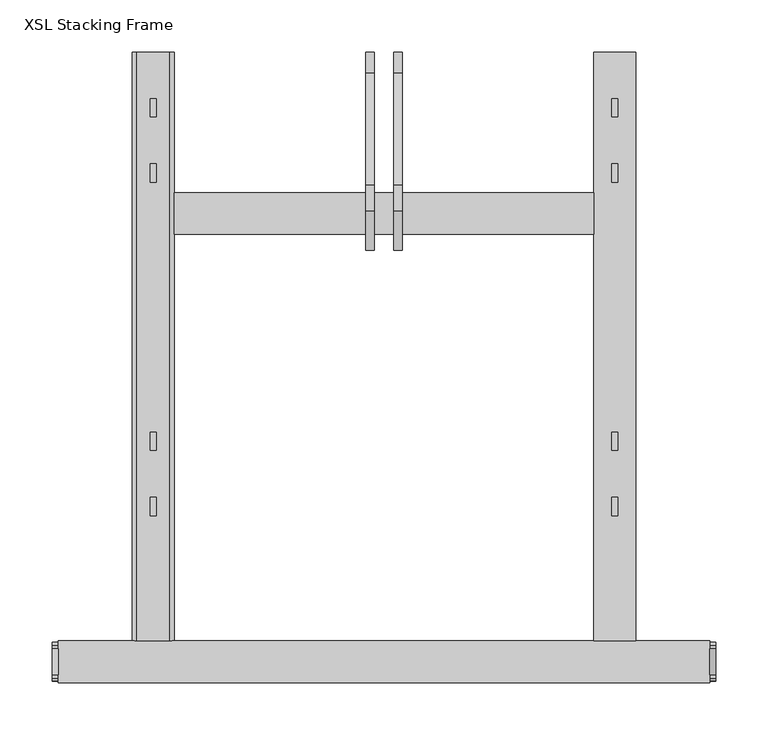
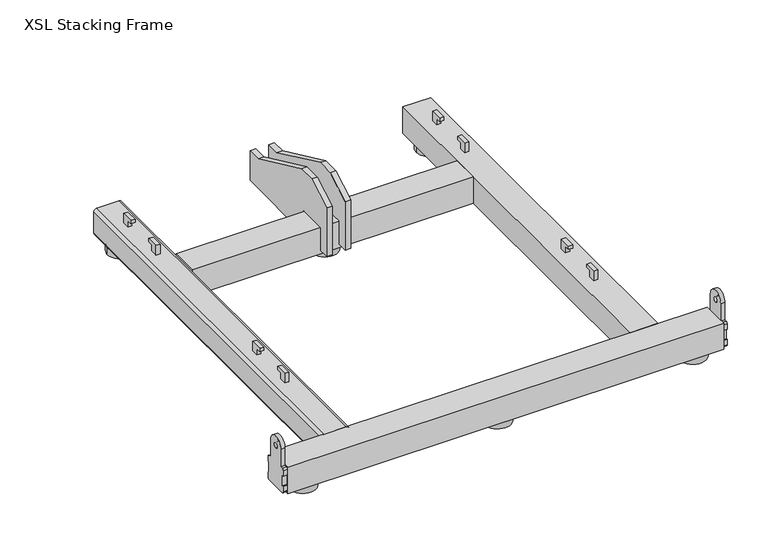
"""IFC4 building model written with IfcOpenShell, lengths in millimetres: proxy geometry, d&b SL-Series XSL Stacking Frame : XSL Stacking Frame."""

from ifc_helpers import new_model, si_unit, point, frame, frame_2d, origin, origin_with_axes, origin_2d, place, context, project, spatial, polyline, circle_curve, trimmed, segment, composite_curve, outline, extrude, source, transform, mapped, element, save


def xsl_stacking_frame_b9873154(model_context):
    return source(origin(), model_context, "Body", "SweptSolid", [
        extrude(outline(composite_curve([segment(polyline([(-12.5, 48.5), (-12.5, 75.0)]), True, "CONTINUOUS"), segment(trimmed(circle_curve(frame_2d((0.0, 75.0)), 12.5), [point((-12.5, 75.0))], [point((12.5, 75.0))], False, "CARTESIAN"), True, "CONTINUOUS"), segment(polyline([(12.5, 75.0), (12.5, 48.5), (16.0, 48.5)]), True, "CONTINUOUS"), segment(trimmed(circle_curve(frame_2d((16.0, 46.0)), 2.5), [point((16.0, 48.5))], [point((18.5, 46.0))], False, "CARTESIAN"), True, "CONTINUOUS"), segment(polyline([(18.5, 46.0), (18.5, 37.7), (16.8, 37.7), (16.8, 22.3), (18.5, 22.3), (18.5, 14.0)]), True, "CONTINUOUS"), segment(trimmed(circle_curve(frame_2d((16.0, 14.0)), 2.5), [point((18.5, 14.0))], [point((16.0, 11.5))], False, "CARTESIAN"), True, "CONTINUOUS"), segment(polyline([(16.0, 11.5), (-16.0, 11.5)]), True, "CONTINUOUS"), segment(trimmed(circle_curve(frame_2d((-16.0, 14.0)), 2.5), [point((-16.0, 11.5))], [point((-18.5, 14.0))], False, "CARTESIAN"), True, "CONTINUOUS"), segment(polyline([(-18.5, 14.0), (-18.5, 22.3), (-16.8, 22.3), (-16.8, 37.7), (-18.5, 37.7), (-18.5, 46.0)]), True, "CONTINUOUS"), segment(trimmed(circle_curve(frame_2d((-16.0, 46.0)), 2.5), [point((-18.5, 46.0))], [point((-16.0, 48.5))], False, "CARTESIAN"), True, "CONTINUOUS"), segment(polyline([(-16.0, 48.5), (-12.5, 48.5)]), True, "CONTINUOUS")], self_intersect=False), holes=[composite_curve([segment(trimmed(circle_curve(frame_2d((0.0, 73.35)), 3.5), [point((0.0, 76.85))], [point((0.0, 69.85))], True, "CARTESIAN"), True, "CONTINUOUS"), segment(trimmed(circle_curve(frame_2d((0.0, 73.35)), 3.5), [point((0.0, 69.85))], [point((0.0, 76.85))], True, "CARTESIAN"), True, "CONTINUOUS")], self_intersect=False)]), frame((312.5, 0.0, 0.0), z_axis=(1.0, 0.0, 0.0), x_axis=(0.0, 1.0, 0.0)), (0.0, 0.0, 1.0), 6.0),
        extrude(outline(composite_curve([segment(polyline([(-12.5, 48.5), (-12.5, 75.0)]), True, "CONTINUOUS"), segment(trimmed(circle_curve(frame_2d((0.0, 75.0)), 12.5), [point((-12.5, 75.0))], [point((12.5, 75.0))], False, "CARTESIAN"), True, "CONTINUOUS"), segment(polyline([(12.5, 75.0), (12.5, 48.5), (16.0, 48.5)]), True, "CONTINUOUS"), segment(trimmed(circle_curve(frame_2d((16.0, 46.0)), 2.5), [point((16.0, 48.5))], [point((18.5, 46.0))], False, "CARTESIAN"), True, "CONTINUOUS"), segment(polyline([(18.5, 46.0), (18.5, 37.7), (16.8, 37.7), (16.8, 22.3), (18.5, 22.3), (18.5, 14.0)]), True, "CONTINUOUS"), segment(trimmed(circle_curve(frame_2d((16.0, 14.0)), 2.5), [point((18.5, 14.0))], [point((16.0, 11.5))], False, "CARTESIAN"), True, "CONTINUOUS"), segment(polyline([(16.0, 11.5), (-16.0, 11.5)]), True, "CONTINUOUS"), segment(trimmed(circle_curve(frame_2d((-16.0, 14.0)), 2.5), [point((-16.0, 11.5))], [point((-18.5, 14.0))], False, "CARTESIAN"), True, "CONTINUOUS"), segment(polyline([(-18.5, 14.0), (-18.5, 22.3), (-16.8, 22.3), (-16.8, 37.7), (-18.5, 37.7), (-18.5, 46.0)]), True, "CONTINUOUS"), segment(trimmed(circle_curve(frame_2d((-16.0, 46.0)), 2.5), [point((-18.5, 46.0))], [point((-16.0, 48.5))], False, "CARTESIAN"), True, "CONTINUOUS"), segment(polyline([(-16.0, 48.5), (-12.5, 48.5)]), True, "CONTINUOUS")], self_intersect=False), holes=[composite_curve([segment(trimmed(circle_curve(frame_2d((0.0, 73.35)), 3.5), [point((0.0, 76.85))], [point((0.0, 69.85))], True, "CARTESIAN"), True, "CONTINUOUS"), segment(trimmed(circle_curve(frame_2d((0.0, 73.35)), 3.5), [point((0.0, 69.85))], [point((0.0, 76.85))], True, "CARTESIAN"), True, "CONTINUOUS")], self_intersect=False)]), frame((-318.5, 0.0, 0.0), z_axis=(1.0, 0.0, 0.0), x_axis=(0.0, 1.0, 0.0)), (0.0, 0.0, 1.0), 6.0),
        extrude(outline(composite_curve([segment(trimmed(circle_curve(frame_2d((-280.0, 0.0)), 19.0), [point((-299.0, 0.0))], [point((-261.0, 0.0))], False, "CARTESIAN"), True, "CONTINUOUS"), segment(trimmed(circle_curve(frame_2d((-280.0, 0.0)), 19.0), [point((-261.0, 0.0))], [point((-299.0, 0.0))], False, "CARTESIAN"), True, "CONTINUOUS")], self_intersect=False)), origin_with_axes(), (0.0, 0.0, 1.0), 10.0),
        extrude(outline(composite_curve([segment(trimmed(circle_curve(origin_2d(), 19.0), [point((-19.0, 0.0))], [point((19.0, 0.0))], False, "CARTESIAN"), True, "CONTINUOUS"), segment(trimmed(circle_curve(origin_2d(), 19.0), [point((19.0, 0.0))], [point((-19.0, 0.0))], False, "CARTESIAN"), True, "CONTINUOUS")], self_intersect=False)), origin_with_axes(), (0.0, 0.0, 1.0), 10.0),
        extrude(outline(composite_curve([segment(trimmed(circle_curve(frame_2d((280.0, 0.0)), 19.0), [point((299.0, 0.0))], [point((261.0, 0.0))], False, "CARTESIAN"), True, "CONTINUOUS"), segment(trimmed(circle_curve(frame_2d((280.0, 0.0)), 19.0), [point((261.0, 0.0))], [point((299.0, 0.0))], False, "CARTESIAN"), True, "CONTINUOUS")], self_intersect=False)), origin_with_axes(), (0.0, 0.0, 1.0), 10.0),
        extrude(outline(composite_curve([segment(trimmed(circle_curve(frame_2d((-221.5, 553.0)), 19.0), [point((-240.5, 553.0))], [point((-202.5, 553.0))], False, "CARTESIAN"), True, "CONTINUOUS"), segment(trimmed(circle_curve(frame_2d((-221.5, 553.0)), 19.0), [point((-202.5, 553.0))], [point((-240.5, 553.0))], False, "CARTESIAN"), True, "CONTINUOUS")], self_intersect=False)), origin_with_axes(), (0.0, 0.0, 1.0), 10.0),
        extrude(outline(composite_curve([segment(trimmed(circle_curve(frame_2d((0.0, 430.0)), 19.0), [point((-19.0, 430.0))], [point((19.0, 430.0))], False, "CARTESIAN"), True, "CONTINUOUS"), segment(trimmed(circle_curve(frame_2d((0.0, 430.0)), 19.0), [point((19.0, 430.0))], [point((-19.0, 430.0))], False, "CARTESIAN"), True, "CONTINUOUS")], self_intersect=False)), origin_with_axes(), (0.0, 0.0, 1.0), 10.0),
        extrude(outline(composite_curve([segment(trimmed(circle_curve(frame_2d((221.5, 553.0)), 19.0), [point((240.5, 553.0))], [point((202.5, 553.0))], False, "CARTESIAN"), True, "CONTINUOUS"), segment(trimmed(circle_curve(frame_2d((221.5, 553.0)), 19.0), [point((202.5, 553.0))], [point((240.5, 553.0))], False, "CARTESIAN"), True, "CONTINUOUS")], self_intersect=False)), origin_with_axes(), (0.0, 0.0, 1.0), 10.0),
        extrude(outline(polyline([(522.75, 64.5), (540.25, 64.5), (540.25, 50.0), (530.25, 50.0), (530.25, 59.5), (522.75, 59.5), (522.75, 64.5)])), frame((-224.5, 0.0, 0.0), z_axis=(1.0, 0.0, 0.0), x_axis=(0.0, 1.0, 0.0)), (0.0, 0.0, 1.0), 6.0),
        extrude(outline(polyline([(477.75, 64.5), (477.75, 59.5), (470.25, 59.5), (470.25, 50.0), (460.25, 50.0), (460.25, 64.5), (477.75, 64.5)])), frame((-224.5, 0.0, 0.0), z_axis=(1.0, 0.0, 0.0), x_axis=(0.0, 1.0, 0.0)), (0.0, 0.0, 1.0), 6.0),
        extrude(outline(polyline([(202.75, 64.5), (220.25, 64.5), (220.25, 50.0), (210.25, 50.0), (210.25, 59.5), (202.75, 59.5), (202.75, 64.5)])), frame((-224.5, 0.0, 0.0), z_axis=(1.0, 0.0, 0.0), x_axis=(0.0, 1.0, 0.0)), (0.0, 0.0, 1.0), 6.0),
        extrude(outline(polyline([(157.75, 64.5), (157.75, 59.5), (150.25, 59.5), (150.25, 50.0), (140.25, 50.0), (140.25, 64.5), (157.75, 64.5)])), frame((-224.5, 0.0, 0.0), z_axis=(1.0, 0.0, 0.0), x_axis=(0.0, 1.0, 0.0)), (0.0, 0.0, 1.0), 6.0),
        extrude(outline(polyline([(432.3205081, 110.0), (457.774654, 110.0), (565.0, 60.0), (585.0, 60.0), (585.0, 15.0), (451.0, 15.0), (451.0, 50.0), (410.0, 50.0), (410.0, 15.0), (395.0, 15.0), (395.0, 88.4529946), (432.3205081, 110.0)])), frame((9.5, 0.0, 0.0), z_axis=(1.0, 0.0, 0.0), x_axis=(0.0, 1.0, 0.0)), (0.0, 0.0, 1.0), 8.0),
        extrude(outline(polyline([(522.75, 64.5), (540.25, 64.5), (540.25, 50.0), (530.25, 50.0), (530.25, 59.5), (522.75, 59.5), (522.75, 64.5)])), frame((218.5, 0.0, 0.0), z_axis=(1.0, 0.0, 0.0), x_axis=(0.0, 1.0, 0.0)), (0.0, 0.0, 1.0), 6.0),
        extrude(outline(polyline([(477.75, 64.5), (477.75, 59.5), (470.25, 59.5), (470.25, 50.0), (460.25, 50.0), (460.25, 64.5), (477.75, 64.5)])), frame((218.5, 0.0, 0.0), z_axis=(1.0, 0.0, 0.0), x_axis=(0.0, 1.0, 0.0)), (0.0, 0.0, 1.0), 6.0),
        extrude(outline(polyline([(202.75, 64.5), (220.25, 64.5), (220.25, 50.0), (210.25, 50.0), (210.25, 59.5), (202.75, 59.5), (202.75, 64.5)])), frame((218.5, 0.0, 0.0), z_axis=(1.0, 0.0, 0.0), x_axis=(0.0, 1.0, 0.0)), (0.0, 0.0, 1.0), 6.0),
        extrude(outline(polyline([(157.75, 64.5), (157.75, 59.5), (150.25, 59.5), (150.25, 50.0), (140.25, 50.0), (140.25, 64.5), (157.75, 64.5)])), frame((218.5, 0.0, 0.0), z_axis=(1.0, 0.0, 0.0), x_axis=(0.0, 1.0, 0.0)), (0.0, 0.0, 1.0), 6.0),
        extrude(outline(polyline([(432.3205081, 110.0), (457.774654, 110.0), (565.0, 60.0), (585.0, 60.0), (585.0, 15.0), (451.0, 15.0), (451.0, 50.0), (410.0, 50.0), (410.0, 15.0), (395.0, 15.0), (395.0, 88.4529946), (432.3205081, 110.0)])), frame((-17.5, 0.0, 0.0), z_axis=(1.0, 0.0, 0.0), x_axis=(0.0, 1.0, 0.0)), (0.0, 0.0, 1.0), 8.0),
        extrude(outline(polyline([(201.5, 450.0), (201.5, 410.0), (-201.5, 410.0), (-201.5, 450.0), (201.5, 450.0)])), frame((0.0, 0.0, 10.0), z_axis=(0.0, 0.0, 1.0), x_axis=(1.0, 0.0, 0.0)), (0.0, 0.0, 1.0), 40.0),
        extrude(outline(composite_curve([segment(polyline([(14.0, -201.5), (46.0, -201.5)]), True, "CONTINUOUS"), segment(trimmed(circle_curve(frame_2d((46.0, -205.5)), 4.0), [point((46.0, -201.5))], [point((50.0, -205.5))], False, "CARTESIAN"), True, "CONTINUOUS"), segment(polyline([(50.0, -205.5), (50.0, -237.5)]), True, "CONTINUOUS"), segment(trimmed(circle_curve(frame_2d((46.0, -237.5)), 4.0), [point((50.0, -237.5))], [point((46.0, -241.5))], False, "CARTESIAN"), True, "CONTINUOUS"), segment(polyline([(46.0, -241.5), (14.0, -241.5)]), True, "CONTINUOUS"), segment(trimmed(circle_curve(frame_2d((14.0, -237.5)), 4.0), [point((14.0, -241.5))], [point((10.0, -237.5))], False, "CARTESIAN"), True, "CONTINUOUS"), segment(polyline([(10.0, -237.5), (10.0, -205.5)]), True, "CONTINUOUS"), segment(trimmed(circle_curve(frame_2d((14.0, -205.5)), 4.0), [point((10.0, -205.5))], [point((14.0, -201.5))], False, "CARTESIAN"), True, "CONTINUOUS")], self_intersect=False)), frame((0.0, 20.0, 0.0), z_axis=(0.0, 1.0, 0.0), x_axis=(0.0, 0.0, 1.0)), (0.0, 0.0, 1.0), 565.0),
        extrude(outline(polyline([(241.5, 20.0), (201.5, 20.0), (201.5, 585.0), (241.5, 585.0), (241.5, 20.0)])), frame((0.0, 0.0, 10.0), z_axis=(0.0, 0.0, 1.0), x_axis=(1.0, 0.0, 0.0)), (0.0, 0.0, 1.0), 40.0),
        extrude(outline(polyline([(312.5, 20.0), (312.5, -20.0), (-312.5, -20.0), (-312.5, 20.0), (312.5, 20.0)])), frame((0.0, 0.0, 10.0), z_axis=(0.0, 0.0, 1.0), x_axis=(1.0, 0.0, 0.0)), (0.0, 0.0, 1.0), 40.0),
    ])


if __name__ == "__main__":
    model = new_model("IFC4")
    model_context = context("Model", 3, world=origin())
    ifc_project = project(units=[si_unit("LENGTHUNIT", "METRE", prefix="MILLI")], contexts=[model_context])
    site = spatial("IfcSite", under=ifc_project)
    building = spatial("IfcBuilding", under=site)
    placement = place(None, origin())
    xsl_stacking_frame_shape = xsl_stacking_frame_b9873154(model_context)
    element("IfcBuildingElementProxy", 1, Name="d&b SL-Series XSL Stacking Frame : XSL Stacking Frame", ObjectType="d&b SL-Series XSL Stacking Frame : XSL Stacking Frame", at=placement, inside=building, context=model_context, shape_type="MappedRepresentation", body=[
        mapped(xsl_stacking_frame_shape, transform((0.0, 0.0, 0.0), x_axis=(1.0, 0.0, 0.0), y_axis=(0.0, 1.0, 0.0), z_axis=(0.0, 0.0, 1.0))),
    ])
    save(model, "model.ifc")
